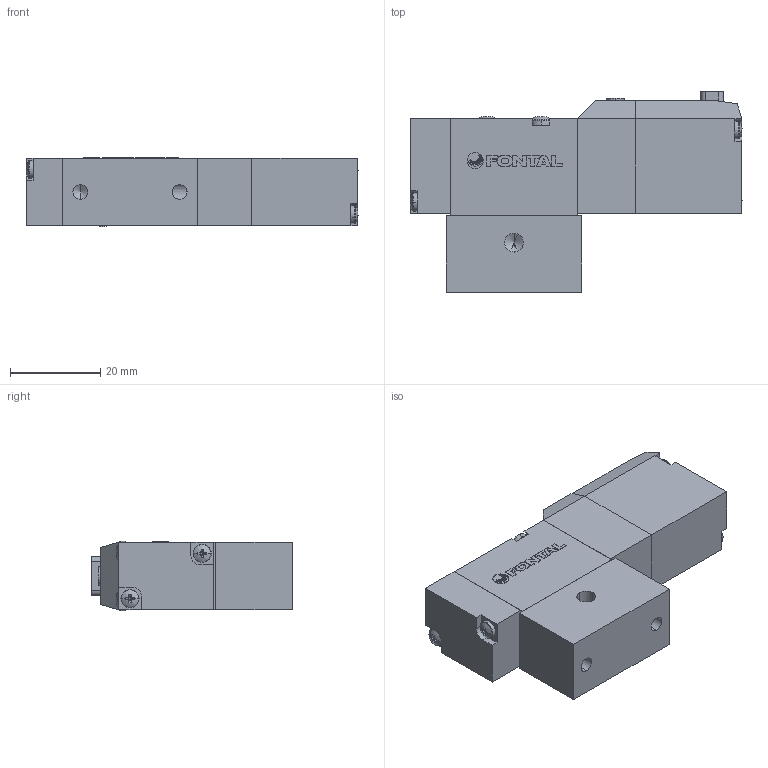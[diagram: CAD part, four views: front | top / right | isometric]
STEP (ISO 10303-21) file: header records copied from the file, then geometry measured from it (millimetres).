
FILE_DESCRIPTION (( 'STEP AP203' ), '1' );
FILE_NAME ('PCS245#-M5-#-L-#.STEP', '2016-02-04T03:53:16', ( 'Sam Lin' ), ( '' ), 'SwSTEP 2.0', 'SolidWorks 2013', '' );
FILE_SCHEMA (( 'CONFIG_CONTROL_DESIGN' ));
Length unit declared in the file: metre
Products named in the file (10): PC5-3; PC5-5; PC-MARK; PC5-6; PC5-1; PC5-4; PC5-2; ISO 7045 - M2.5 x 25; PCS245#-M5-#-L-#; ISO 7045 - M2 x 10
Assembly tree (13 placements, depth 2):
  PCS245#-M5-#-L-#
    PC5-1
    PC5-2
    ISO 7045 - M2 x 10  x4
    PC5-3
    PC5-5
    PC-MARK
    PC5-6
    PC5-4
    ISO 7045 - M2.5 x 25  x2
Bounding box: 73.64 x 44.5 x 15.4 mm (x, y, z)
Volume: 31203.6 mm3; surface area: 13755.2 mm2
Topology: 19 solids, 19 shells, 483 faces, 1187 edges, 732 vertices
Faces by surface type: plane 263, cylinder 97, cone 79, bspline 44
Entity records: 10763 total; most frequent: CARTESIAN_POINT 2255, ORIENTED_EDGE 1526, DIRECTION 1505, EDGE_CURVE 763, AXIS2_PLACEMENT_3D 522, VERTEX_POINT 492, LINE 461, VECTOR 461
